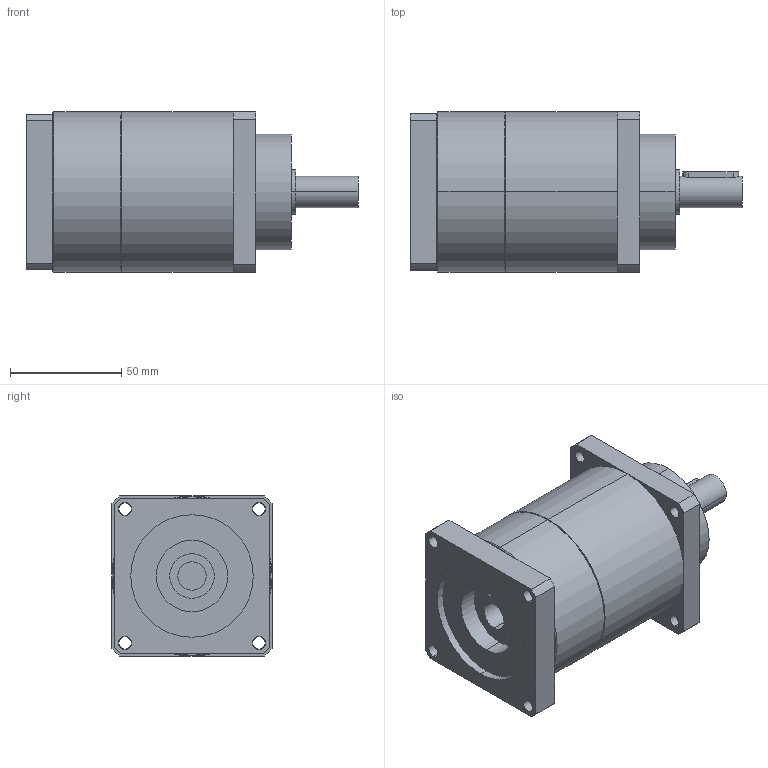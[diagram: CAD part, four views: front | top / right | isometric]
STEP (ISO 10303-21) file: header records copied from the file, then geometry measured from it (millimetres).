
FILE_DESCRIPTION(('CoCreate Modeling STEP Export'),'2;1');
FILE_NAME('GPT75_ig-9-12-16-20-25-28-35-40-50-70-100_14_B5T_12.7_P25.stp','2014-08-27T13:36:07',(''),(''),'CoCreate Modeling STEP processor for AP214 (Solid Model)','CoCreate Modeling 16.00C 25-Feb-2009 (C) Parametric Technology GmbH','');
FILE_SCHEMA(('AUTOMOTIVE_DESIGN { 1 0 10303 214 1 1 1 1 }'));
Length unit declared in the file: millimetre
Products named in the file (2): GPT75_ig-9-12-16-20-25-28-35-40-50-70-100_14_B5T_12.7_P25
Assembly tree (1 placements, depth 2):
  GPT75_ig-9-12-16-20-25-28-35-40-50-70-100_14_B5T_12.7_P25
    GPT75_ig-9-12-16-20-25-28-35-40-50-70-100_14_B5T_12.7_P25
Bounding box: 149 x 72 x 72 mm (x, y, z)
Volume: 458559.6 mm3; surface area: 45102.4 mm2
Topology: 1 solids, 1 shells, 84 faces, 210 edges, 137 vertices
Faces by surface type: cylinder 46, plane 34, cone 4
Entity records: 2588 total; most frequent: CARTESIAN_POINT 732, ORIENTED_EDGE 420, DIRECTION 326, EDGE_CURVE 210, VERTEX_POINT 137, AXIS2_PLACEMENT_3D 119, EDGE_LOOP 109, VECTOR 88
